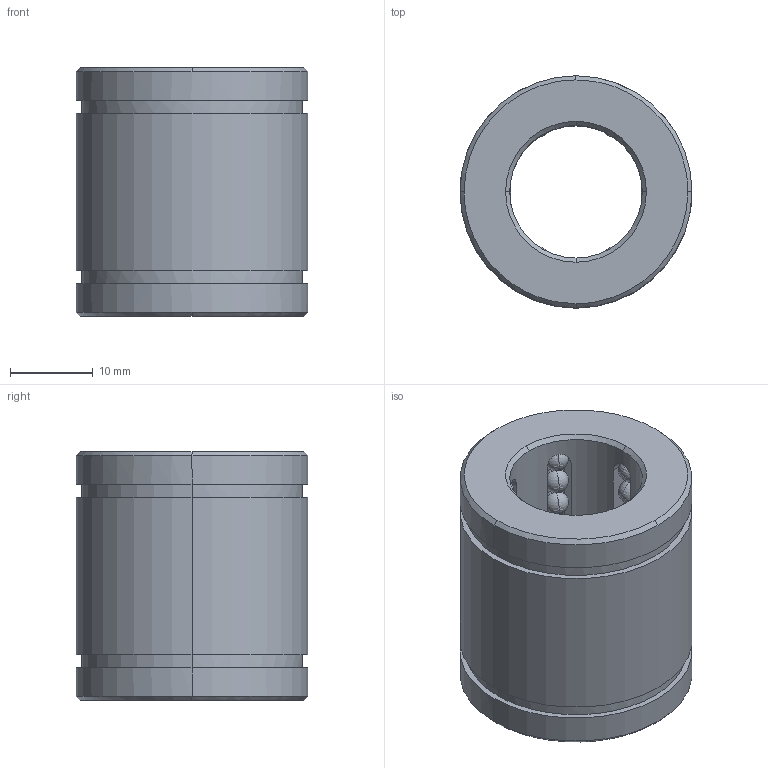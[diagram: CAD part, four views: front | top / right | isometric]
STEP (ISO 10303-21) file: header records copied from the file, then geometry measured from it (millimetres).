
FILE_DESCRIPTION(('CATIA V5 STEP Exchange'),'2;1');
FILE_NAME('C:\Users\Raffaele\Desktop\3D BOLEX\3D FILES CF BOLEX\3-BUSH REF 803\B8031630.stp','2019-06-19T14:10:56+00:00',('none'),('none'),'CATIA Version 5 Release 20 GA (IN-10)','CATIA V5 STEP AP203','none');
FILE_SCHEMA(('CONFIG_CONTROL_DESIGN'));
Length unit declared in the file: millimetre
Products named in the file (1): B8031630
Bounding box: 28 x 28 x 30 mm (x, y, z)
Volume: 11583.9 mm3; surface area: 7457.9 mm2
Topology: 49 solids, 49 shells, 256 faces, 730 edges, 196 vertices
Faces by surface type: sphere 192, cylinder 24, plane 24, cone 16
Entity records: 5421 total; most frequent: CARTESIAN_POINT 1272, DIRECTION 818, ORIENTED_EDGE 692, AXIS2_PLACEMENT_3D 485, EDGE_CURVE 346, EDGE_LOOP 266, ADVANCED_FACE 256, FACE_OUTER_BOUND 256
